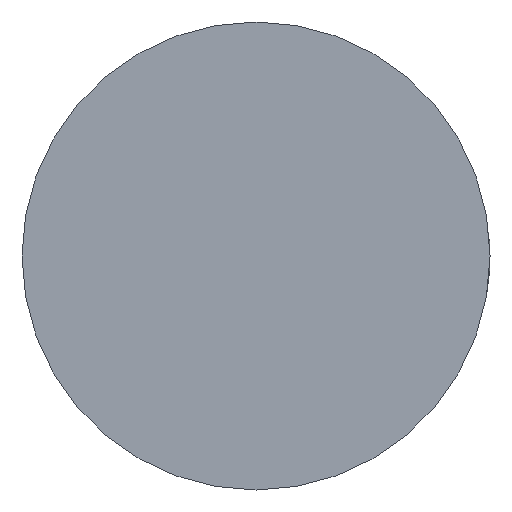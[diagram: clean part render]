
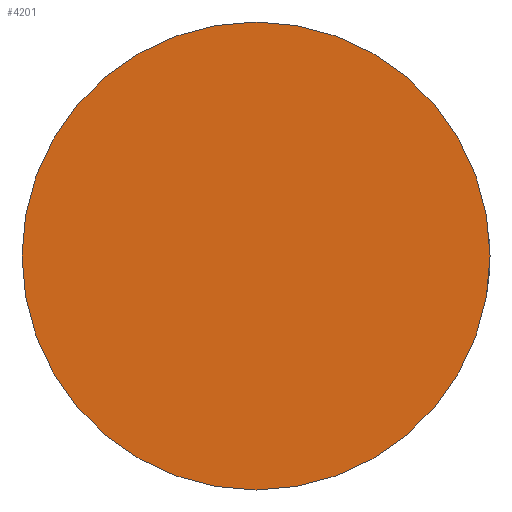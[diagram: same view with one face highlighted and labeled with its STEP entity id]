
A CAD part, front view. The second image highlights one B-rep face of the part: STEP entity #4201.
In plain terms, the highlighted planar face has unit normal (0, -1, 0).
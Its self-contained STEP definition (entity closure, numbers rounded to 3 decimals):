
#12 = CIRCLE ( 'NONE', #4138, 8.5 ) ;
#104 = CARTESIAN_POINT ( 'NONE',  ( 0., 0., 0. ) ) ;
#716 = CARTESIAN_POINT ( 'NONE',  ( 0., 0., 0. ) ) ;
#1353 = VERTEX_POINT ( 'NONE', #3220 ) ;
#1356 = DIRECTION ( 'NONE',  ( 0., 0., 1. ) ) ;
#1911 = DIRECTION ( 'NONE',  ( 0., 0., 1. ) ) ;
#2276 = ORIENTED_EDGE ( 'NONE', *, *, #4407, .F. ) ;
#2282 = DIRECTION ( 'NONE',  ( 0., 1., 0. ) ) ;
#2318 = EDGE_LOOP ( 'NONE', ( #4096, #2276 ) ) ;
#2464 = CIRCLE ( 'NONE', #4195, 8.5 ) ;
#2614 = CARTESIAN_POINT ( 'NONE',  ( 0., 0., 0. ) ) ;
#2893 = VERTEX_POINT ( 'NONE', #4469 ) ;
#2951 = FACE_OUTER_BOUND ( 'NONE', #2318, .T. ) ;
#3220 = CARTESIAN_POINT ( 'NONE',  ( -8.5, 0., 0. ) ) ;
#3386 = EDGE_CURVE ( 'NONE', #2893, #1353, #12, .T. ) ;
#3535 = AXIS2_PLACEMENT_3D ( 'NONE', #104, #4029, #1911 ) ;
#3711 = DIRECTION ( 'NONE',  ( 0., 0., 1. ) ) ;
#4029 = DIRECTION ( 'NONE',  ( 0., 1., 0. ) ) ;
#4096 = ORIENTED_EDGE ( 'NONE', *, *, #3386, .F. ) ;
#4138 = AXIS2_PLACEMENT_3D ( 'NONE', #2614, #2282, #3711 ) ;
#4195 = AXIS2_PLACEMENT_3D ( 'NONE', #716, #4595, #1356 ) ;
#4201 = ADVANCED_FACE ( 'NONE', ( #2951 ), #4432, .F. ) ;
#4407 = EDGE_CURVE ( 'NONE', #1353, #2893, #2464, .T. ) ;
#4432 = PLANE ( 'NONE',  #3535 ) ;
#4469 = CARTESIAN_POINT ( 'NONE',  ( 8.5, 0., 0. ) ) ;
#4595 = DIRECTION ( 'NONE',  ( 0., 1., 0. ) ) ;
